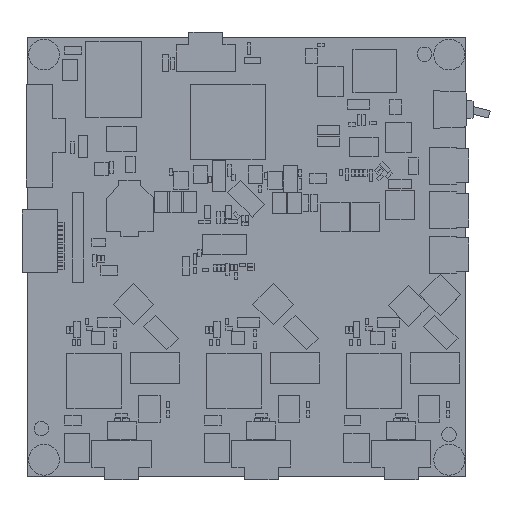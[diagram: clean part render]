
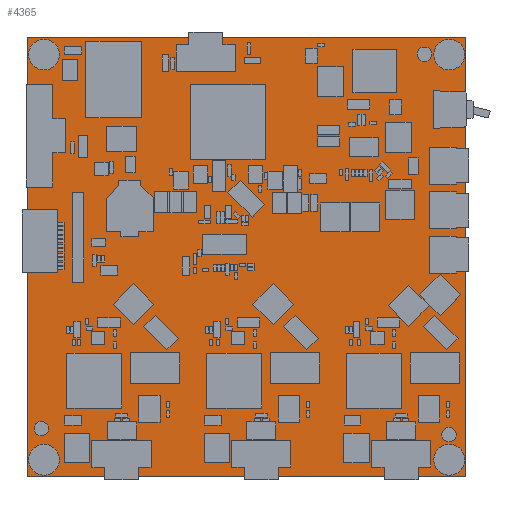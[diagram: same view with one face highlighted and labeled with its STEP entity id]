
A CAD part, top view. The second image highlights one B-rep face of the part: STEP entity #4365.
In plain terms, the highlighted planar face has unit normal (0, 0, 1).
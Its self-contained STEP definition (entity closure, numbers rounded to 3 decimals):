
#846=CIRCLE($,#3215,0.65);
#847=CIRCLE($,#3216,0.65);
#850=CIRCLE($,#3221,0.65);
#851=CIRCLE($,#3222,0.65);
#854=CIRCLE($,#3227,0.65);
#855=CIRCLE($,#3228,0.65);
#858=CIRCLE($,#3233,0.65);
#859=CIRCLE($,#3234,0.65);
#862=CIRCLE($,#3239,0.65);
#863=CIRCLE($,#3240,0.65);
#866=CIRCLE($,#3245,0.65);
#867=CIRCLE($,#3246,0.65);
#870=CIRCLE($,#3251,0.65);
#871=CIRCLE($,#3252,0.65);
#874=CIRCLE($,#3257,0.65);
#875=CIRCLE($,#3258,0.65);
#2449=FACE_OUTER_BOUND($,#2829,.F.);
#2455=FACE_OUTER_BOUND($,#2835,.T.);
#2459=FACE_OUTER_BOUND($,#2839,.T.);
#2463=FACE_OUTER_BOUND($,#2843,.T.);
#2467=FACE_OUTER_BOUND($,#2847,.T.);
#2471=FACE_OUTER_BOUND($,#2851,.T.);
#2475=FACE_OUTER_BOUND($,#2855,.T.);
#2479=FACE_OUTER_BOUND($,#2859,.T.);
#2483=FACE_OUTER_BOUND($,#2863,.T.);
#2829=EDGE_LOOP($,(#4729,#4730,#4731,#4732));
#2835=EDGE_LOOP($,(#4753,#4754));
#2839=EDGE_LOOP($,(#4765,#4766));
#2843=EDGE_LOOP($,(#4777,#4778));
#2847=EDGE_LOOP($,(#4789,#4790));
#2851=EDGE_LOOP($,(#4801,#4802));
#2855=EDGE_LOOP($,(#4813,#4814));
#2859=EDGE_LOOP($,(#4825,#4826));
#2863=EDGE_LOOP($,(#4837,#4838));
#3209=AXIS2_PLACEMENT_3D($,#11390,#9941,$);
#3215=AXIS2_PLACEMENT_3D($,#11402,#9941,$);
#3216=AXIS2_PLACEMENT_3D($,#11403,#9941,$);
#3221=AXIS2_PLACEMENT_3D($,#11414,#9941,$);
#3222=AXIS2_PLACEMENT_3D($,#11415,#9941,$);
#3227=AXIS2_PLACEMENT_3D($,#11426,#9941,$);
#3228=AXIS2_PLACEMENT_3D($,#11427,#9941,$);
#3233=AXIS2_PLACEMENT_3D($,#11438,#9941,$);
#3234=AXIS2_PLACEMENT_3D($,#11439,#9941,$);
#3239=AXIS2_PLACEMENT_3D($,#11450,#9941,$);
#3240=AXIS2_PLACEMENT_3D($,#11451,#9941,$);
#3245=AXIS2_PLACEMENT_3D($,#11462,#9941,$);
#3246=AXIS2_PLACEMENT_3D($,#11463,#9941,$);
#3251=AXIS2_PLACEMENT_3D($,#11474,#9941,$);
#3252=AXIS2_PLACEMENT_3D($,#11475,#9941,$);
#3257=AXIS2_PLACEMENT_3D($,#11486,#9941,$);
#3258=AXIS2_PLACEMENT_3D($,#11487,#9941,$);
#4021=PLANE($,#3209);
#4365=ADVANCED_FACE($,(#2449,#2455,#2459,#2463,#2467,#2471,#2475,#2479,
#2483),#4021,.T.);
#4729=ORIENTED_EDGE($,*,*,#6289,.T.);
#4730=ORIENTED_EDGE($,*,*,#6290,.T.);
#4731=ORIENTED_EDGE($,*,*,#6291,.T.);
#4732=ORIENTED_EDGE($,*,*,#6292,.T.);
#4753=ORIENTED_EDGE($,*,*,#6302,.T.);
#4754=ORIENTED_EDGE($,*,*,#6303,.T.);
#4765=ORIENTED_EDGE($,*,*,#6309,.T.);
#4766=ORIENTED_EDGE($,*,*,#6310,.T.);
#4777=ORIENTED_EDGE($,*,*,#6316,.T.);
#4778=ORIENTED_EDGE($,*,*,#6317,.T.);
#4789=ORIENTED_EDGE($,*,*,#6323,.T.);
#4790=ORIENTED_EDGE($,*,*,#6324,.T.);
#4801=ORIENTED_EDGE($,*,*,#6330,.T.);
#4802=ORIENTED_EDGE($,*,*,#6331,.T.);
#4813=ORIENTED_EDGE($,*,*,#6337,.T.);
#4814=ORIENTED_EDGE($,*,*,#6338,.T.);
#4825=ORIENTED_EDGE($,*,*,#6344,.T.);
#4826=ORIENTED_EDGE($,*,*,#6345,.T.);
#4837=ORIENTED_EDGE($,*,*,#6351,.T.);
#4838=ORIENTED_EDGE($,*,*,#6352,.T.);
#6289=EDGE_CURVE($,#8729,#8730,#7929,.T.);
#6290=EDGE_CURVE($,#8730,#8731,#7930,.T.);
#6291=EDGE_CURVE($,#8731,#8732,#7931,.T.);
#6292=EDGE_CURVE($,#8732,#8729,#7932,.T.);
#6302=EDGE_CURVE($,#8739,#8740,#846,.F.);
#6303=EDGE_CURVE($,#8740,#8739,#847,.F.);
#6309=EDGE_CURVE($,#8745,#8746,#850,.F.);
#6310=EDGE_CURVE($,#8746,#8745,#851,.F.);
#6316=EDGE_CURVE($,#8751,#8752,#854,.F.);
#6317=EDGE_CURVE($,#8752,#8751,#855,.F.);
#6323=EDGE_CURVE($,#8757,#8758,#858,.F.);
#6324=EDGE_CURVE($,#8758,#8757,#859,.F.);
#6330=EDGE_CURVE($,#8763,#8764,#862,.F.);
#6331=EDGE_CURVE($,#8764,#8763,#863,.F.);
#6337=EDGE_CURVE($,#8769,#8770,#866,.F.);
#6338=EDGE_CURVE($,#8770,#8769,#867,.F.);
#6344=EDGE_CURVE($,#8775,#8776,#870,.F.);
#6345=EDGE_CURVE($,#8776,#8775,#871,.F.);
#6351=EDGE_CURVE($,#8781,#8782,#874,.F.);
#6352=EDGE_CURVE($,#8782,#8781,#875,.F.);
#7129=VECTOR($,#9944,100.);
#7130=VECTOR($,#9945,100.);
#7131=VECTOR($,#9946,100.);
#7132=VECTOR($,#9947,100.);
#7929=LINE($,#11389,#7129);
#7930=LINE($,#11390,#7130);
#7931=LINE($,#11391,#7131);
#7932=LINE($,#11392,#7132);
#8729=VERTEX_POINT($,#11389);
#8730=VERTEX_POINT($,#11390);
#8731=VERTEX_POINT($,#11391);
#8732=VERTEX_POINT($,#11392);
#8739=VERTEX_POINT($,#11399);
#8740=VERTEX_POINT($,#11400);
#8745=VERTEX_POINT($,#11411);
#8746=VERTEX_POINT($,#11412);
#8751=VERTEX_POINT($,#11423);
#8752=VERTEX_POINT($,#11424);
#8757=VERTEX_POINT($,#11435);
#8758=VERTEX_POINT($,#11436);
#8763=VERTEX_POINT($,#11447);
#8764=VERTEX_POINT($,#11448);
#8769=VERTEX_POINT($,#11459);
#8770=VERTEX_POINT($,#11460);
#8775=VERTEX_POINT($,#11471);
#8776=VERTEX_POINT($,#11472);
#8781=VERTEX_POINT($,#11483);
#8782=VERTEX_POINT($,#11484);
#9941=DIRECTION($,(0.,0.,1.));
#9944=DIRECTION($,(0.,1.,0.));
#9945=DIRECTION($,(1.,0.,0.));
#9946=DIRECTION($,(0.,-1.,0.));
#9947=DIRECTION($,(-1.,0.,0.));
#11389=CARTESIAN_POINT('',(0.,0.,0.));
#11390=CARTESIAN_POINT('',(0.,100.,0.));
#11391=CARTESIAN_POINT('',(100.,100.,0.));
#11392=CARTESIAN_POINT('',(100.,0.,0.));
#11399=CARTESIAN_POINT('',(53.99,3.81,0.));
#11400=CARTESIAN_POINT('',(52.69,3.81,0.));
#11402=CARTESIAN_POINT('',(53.34,3.81,0.));
#11403=CARTESIAN_POINT('',(53.34,3.81,0.));
#11411=CARTESIAN_POINT('',(22.113,3.81,0.));
#11412=CARTESIAN_POINT('',(20.813,3.81,0.));
#11414=CARTESIAN_POINT('',(21.463,3.81,0.));
#11415=CARTESIAN_POINT('',(21.463,3.81,0.));
#11423=CARTESIAN_POINT('',(85.867,3.81,0.));
#11424=CARTESIAN_POINT('',(84.567,3.81,0.));
#11426=CARTESIAN_POINT('',(85.217,3.81,0.));
#11427=CARTESIAN_POINT('',(85.217,3.81,0.));
#11435=CARTESIAN_POINT('',(41.35,96.717,0.));
#11436=CARTESIAN_POINT('',(40.05,96.717,0.));
#11438=CARTESIAN_POINT('',(40.7,96.717,0.));
#11439=CARTESIAN_POINT('',(40.7,96.717,0.));
#11447=CARTESIAN_POINT('',(96.732,50.526,0.));
#11448=CARTESIAN_POINT('',(95.432,50.526,0.));
#11450=CARTESIAN_POINT('',(96.082,50.526,0.));
#11451=CARTESIAN_POINT('',(96.082,50.526,0.));
#11459=CARTESIAN_POINT('',(96.732,60.686,0.));
#11460=CARTESIAN_POINT('',(95.432,60.686,0.));
#11462=CARTESIAN_POINT('',(96.082,60.686,0.));
#11463=CARTESIAN_POINT('',(96.082,60.686,0.));
#11471=CARTESIAN_POINT('',(96.732,70.846,0.));
#11472=CARTESIAN_POINT('',(95.432,70.846,0.));
#11474=CARTESIAN_POINT('',(96.082,70.846,0.));
#11475=CARTESIAN_POINT('',(96.082,70.846,0.));
#11483=CARTESIAN_POINT('',(4.784,77.711,0.));
#11484=CARTESIAN_POINT('',(3.484,77.711,0.));
#11486=CARTESIAN_POINT('',(4.134,77.711,0.));
#11487=CARTESIAN_POINT('',(4.134,77.711,0.));
